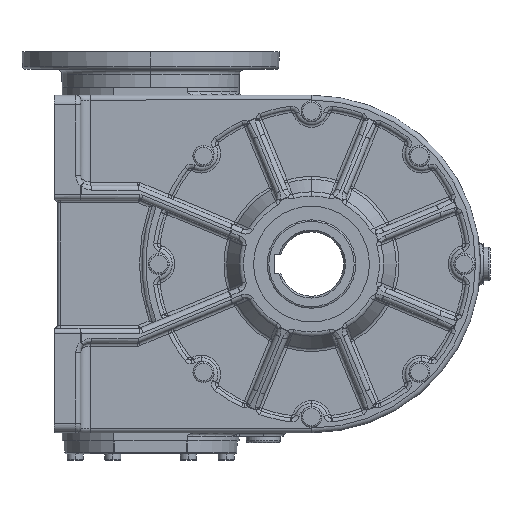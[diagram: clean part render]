
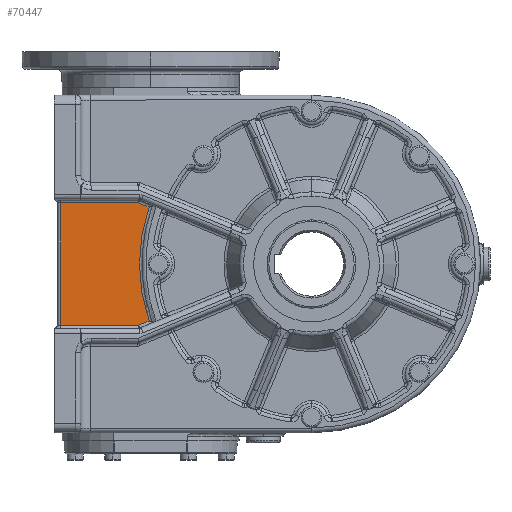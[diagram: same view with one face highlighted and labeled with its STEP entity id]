
A CAD part, left-side view. The second image highlights one B-rep face of the part: STEP entity #70447.
In plain terms, the highlighted planar face has unit normal (-1, 0, 0) as drawn and (0, 0, -1) by its records, which use the part's own axes.
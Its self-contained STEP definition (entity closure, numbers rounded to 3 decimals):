
#227 = EDGE_CURVE ( 'NONE', #285, #70892, #7493, .T. ) ;
#237 = ORIENTED_EDGE ( 'NONE', *, *, #227, .T. ) ;
#248 = ORIENTED_EDGE ( 'NONE', *, *, #69127, .T. ) ;
#251 = EDGE_CURVE ( 'NONE', #288, #285, #7895, .T. ) ;
#285 = VERTEX_POINT ( 'NONE', #8159 ) ;
#288 = VERTEX_POINT ( 'NONE', #8164 ) ;
#315 = EDGE_CURVE ( 'NONE', #328, #288, #8780, .T. ) ;
#326 = ORIENTED_EDGE ( 'NONE', *, *, #341, .T. ) ;
#328 = VERTEX_POINT ( 'NONE', #8853 ) ;
#333 = ORIENTED_EDGE ( 'NONE', *, *, #339, .T. ) ;
#339 = EDGE_CURVE ( 'NONE', #345, #328, #8870, .T. ) ;
#341 = EDGE_CURVE ( 'NONE', #69364, #345, #8865, .T. ) ;
#342 = ORIENTED_EDGE ( 'NONE', *, *, #315, .T. ) ;
#345 = VERTEX_POINT ( 'NONE', #8855 ) ;
#7490 = DIRECTION ( 'NONE',  ( -1., 0., 0. ) ) ;
#7491 = VECTOR ( 'NONE', #7490, 1000. ) ;
#7492 = CARTESIAN_POINT ( 'NONE',  ( -40., -156., -8. ) ) ;
#7493 = LINE ( 'NONE', #7492, #7491 ) ;
#7888 = DIRECTION ( 'NONE',  ( 0., -1., 0. ) ) ;
#7889 = VECTOR ( 'NONE', #7888, 1000. ) ;
#7890 = CARTESIAN_POINT ( 'NONE',  ( 38., 0., -8. ) ) ;
#7895 = LINE ( 'NONE', #7890, #7889 ) ;
#8159 = CARTESIAN_POINT ( 'NONE',  ( 38., -156., -8. ) ) ;
#8164 = CARTESIAN_POINT ( 'NONE',  ( 38., -107.419, -8. ) ) ;
#8777 = DIRECTION ( 'NONE',  ( 0.383, -0.924, 0. ) ) ;
#8778 = VECTOR ( 'NONE', #8777, 1000. ) ;
#8779 = CARTESIAN_POINT ( 'NONE',  ( 38.152, -107.786, -8. ) ) ;
#8780 = LINE ( 'NONE', #8779, #8778 ) ;
#8853 = CARTESIAN_POINT ( 'NONE',  ( 35.339, -100.996, -8. ) ) ;
#8855 = CARTESIAN_POINT ( 'NONE',  ( -35.339, -100.996, -8. ) ) ;
#8862 = DIRECTION ( 'NONE',  ( 0.383, 0.924, 0. ) ) ;
#8863 = VECTOR ( 'NONE', #8862, 1000. ) ;
#8864 = CARTESIAN_POINT ( 'NONE',  ( -34.609, -99.233, -8. ) ) ;
#8865 = LINE ( 'NONE', #8864, #8863 ) ;
#8866 = DIRECTION ( 'NONE',  ( 1., 0., 0. ) ) ;
#8867 = DIRECTION ( 'NONE',  ( 0., 0., 1. ) ) ;
#8868 = CARTESIAN_POINT ( 'NONE',  ( 0., 0., -8. ) ) ;
#8869 = AXIS2_PLACEMENT_3D ( 'NONE', #8868, #8867, #8866 ) ;
#8870 = CIRCLE ( 'NONE', #8869, 107. ) ;
#35523 = DIRECTION ( 'NONE',  ( 0., 1., 0. ) ) ;
#35524 = VECTOR ( 'NONE', #35523, 1000. ) ;
#35525 = CARTESIAN_POINT ( 'NONE',  ( -38., 0., -8. ) ) ;
#35526 = LINE ( 'NONE', #35525, #35524 ) ;
#36469 = CARTESIAN_POINT ( 'NONE',  ( -38., -107.419, -8. ) ) ;
#57104 = FACE_OUTER_BOUND ( 'NONE', #70396, .T. ) ;
#57170 = DIRECTION ( 'NONE',  ( 1., 0., 0. ) ) ;
#57171 = DIRECTION ( 'NONE',  ( 0., 0., 1. ) ) ;
#57172 = CARTESIAN_POINT ( 'NONE',  ( 0., 0., -8. ) ) ;
#57173 = AXIS2_PLACEMENT_3D ( 'NONE', #57172, #57171, #57170 ) ;
#57174 = PLANE ( 'NONE',  #57173 ) ;
#67275 = CARTESIAN_POINT ( 'NONE',  ( -38., -156., -8. ) ) ;
#69127 = EDGE_CURVE ( 'NONE', #70892, #69364, #35526, .T. ) ;
#69364 = VERTEX_POINT ( 'NONE', #36469 ) ;
#70396 = EDGE_LOOP ( 'NONE', ( #70598, #237, #248, #326, #333, #342 ) ) ;
#70447 = ADVANCED_FACE ( 'NONE', ( #57104 ), #57174, .F. ) ;
#70598 = ORIENTED_EDGE ( 'NONE', *, *, #251, .T. ) ;
#70892 = VERTEX_POINT ( 'NONE', #67275 ) ;
